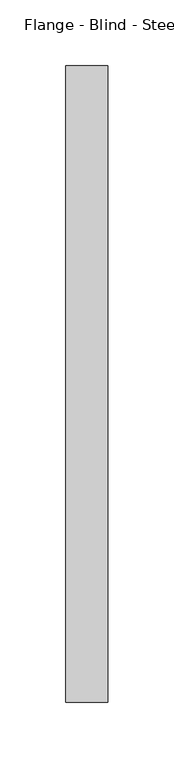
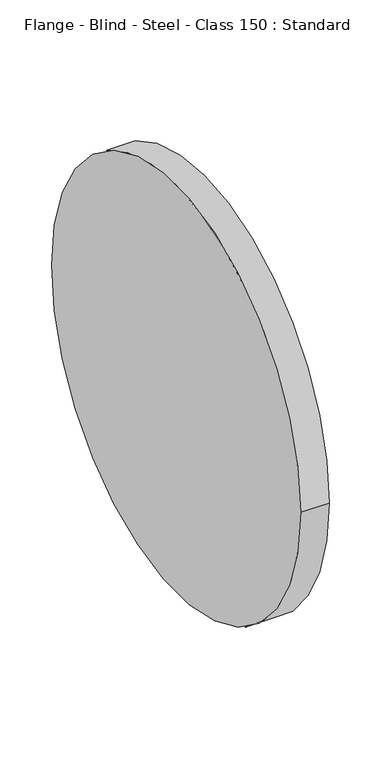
"""IFC4 building model written with IfcOpenShell, lengths in millimetres: pipe fitting geometry, Flange - Blind - Steel - Class 150 : Standard."""

from ifc_helpers import new_model, si_unit, point, frame, origin, origin_2d, place, context, project, spatial, circle_curve, trimmed, segment, composite_curve, outline, extrude, source, transform, mapped, element, save


def flange_blind_steel_class_150_standard_7644e349(model_context):
    return source(origin(), model_context, "Body", "SweptSolid", [
        extrude(outline(composite_curve([segment(trimmed(circle_curve(origin_2d(), 241.3), [point((-241.3, 0.0))], [point((241.3, 0.0))], False, "CARTESIAN"), True, "CONTINUOUS"), segment(trimmed(circle_curve(origin_2d(), 241.3), [point((241.3, 0.0))], [point((-241.3, 0.0))], False, "CARTESIAN"), True, "CONTINUOUS")], self_intersect=False)), frame((1.5875, 0.0, 0.0), z_axis=(1.0, 0.0, 0.0), x_axis=(0.0, 1.0, 0.0)), (0.0, 0.0, 1.0), 31.75),
    ])


if __name__ == "__main__":
    model = new_model("IFC4")
    model_context = context("Model", 3, world=origin())
    ifc_project = project(units=[si_unit("LENGTHUNIT", "METRE", prefix="MILLI")], contexts=[model_context])
    site = spatial("IfcSite", under=ifc_project)
    building = spatial("IfcBuilding", under=site)
    placement = place(None, origin())
    flange_blind_steel_class_150_standard_shape = flange_blind_steel_class_150_standard_7644e349(model_context)
    element("IfcPipeFitting", 1, ObjectType="Flange - Blind - Steel - Class 150 : Standard", at=placement, inside=building, context=model_context, shape_type="MappedRepresentation", body=[
        mapped(flange_blind_steel_class_150_standard_shape, transform((0.0, 0.0, 0.0), x_axis=(1.0, 0.0, 0.0), y_axis=(0.0, 1.0, 0.0), z_axis=(0.0, 0.0, 1.0))),
    ])
    save(model, "model.ifc")
